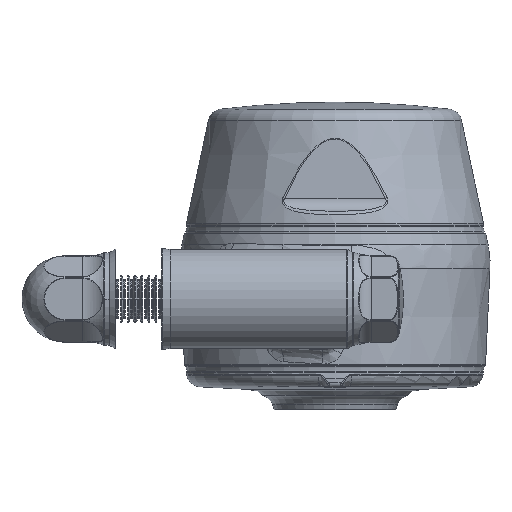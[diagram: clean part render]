
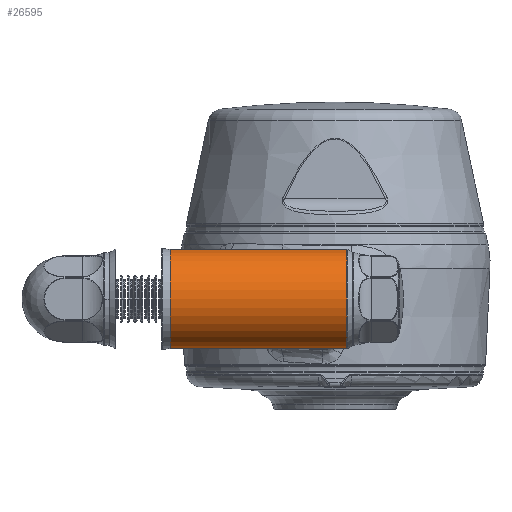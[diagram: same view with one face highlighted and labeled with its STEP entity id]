
A CAD part, front view. The second image highlights one B-rep face of the part: STEP entity #26595.
In plain terms, the highlighted cylindrical face has radius 10.5 mm (diameter 21 mm), a partial arc.
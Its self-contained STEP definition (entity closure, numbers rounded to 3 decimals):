
#402 = CARTESIAN_POINT ( 'NONE',  ( -35., -52.5, 10.5 ) ) ;
#1093 = DIRECTION ( 'NONE',  ( 1., 0., 0. ) ) ;
#2788 = EDGE_CURVE ( 'NONE', #28587, #23941, #20156, .T. ) ;
#4043 = VECTOR ( 'NONE', #26566, 1000. ) ;
#4439 = LINE ( 'NONE', #13858, #4043 ) ;
#4810 = DIRECTION ( 'NONE',  ( 1., 0., 0. ) ) ;
#5209 = AXIS2_PLACEMENT_3D ( 'NONE', #24037, #1093, #21870 ) ;
#8911 = CIRCLE ( 'NONE', #21015, 10.5 ) ;
#9025 = ORIENTED_EDGE ( 'NONE', *, *, #2788, .T. ) ;
#9977 = CIRCLE ( 'NONE', #5209, 10.5 ) ;
#11156 = CARTESIAN_POINT ( 'NONE',  ( -35., -52.5, -10.5 ) ) ;
#11353 = DIRECTION ( 'NONE',  ( 0., 0., 1. ) ) ;
#11750 = CARTESIAN_POINT ( 'NONE',  ( -36.5, -52.5, 0. ) ) ;
#13858 = CARTESIAN_POINT ( 'NONE',  ( -36.5, -52.5, 10.5 ) ) ;
#13901 = DIRECTION ( 'NONE',  ( 1., 0., 0. ) ) ;
#14394 = FACE_OUTER_BOUND ( 'NONE', #15190, .T. ) ;
#14416 = ORIENTED_EDGE ( 'NONE', *, *, #28078, .T. ) ;
#14483 = CARTESIAN_POINT ( 'NONE',  ( 2.5, -52.5, 0. ) ) ;
#14562 = DIRECTION ( 'NONE',  ( 0., 0., 1. ) ) ;
#15190 = EDGE_LOOP ( 'NONE', ( #31605, #9025, #14416, #26839 ) ) ;
#15607 = VERTEX_POINT ( 'NONE', #16480 ) ;
#16423 = VECTOR ( 'NONE', #4810, 1000. ) ;
#16480 = CARTESIAN_POINT ( 'NONE',  ( 2.5, -52.5, 10.5 ) ) ;
#16645 = DIRECTION ( 'NONE',  ( -1., 0., 0. ) ) ;
#17046 = CARTESIAN_POINT ( 'NONE',  ( 2.5, -52.5, -10.5 ) ) ;
#17051 = CARTESIAN_POINT ( 'NONE',  ( -36.5, -52.5, -10.5 ) ) ;
#19199 = CYLINDRICAL_SURFACE ( 'NONE', #30973, 10.5 ) ;
#20156 = LINE ( 'NONE', #17051, #16423 ) ;
#21015 = AXIS2_PLACEMENT_3D ( 'NONE', #14483, #16645, #11353 ) ;
#21870 = DIRECTION ( 'NONE',  ( 0., 0., -1. ) ) ;
#23941 = VERTEX_POINT ( 'NONE', #17046 ) ;
#24037 = CARTESIAN_POINT ( 'NONE',  ( -35., -52.5, 0. ) ) ;
#25426 = VERTEX_POINT ( 'NONE', #402 ) ;
#25540 = EDGE_CURVE ( 'NONE', #25426, #15607, #4439, .T. ) ;
#26566 = DIRECTION ( 'NONE',  ( 1., 0., 0. ) ) ;
#26595 = ADVANCED_FACE ( 'NONE', ( #14394 ), #19199, .T. ) ;
#26839 = ORIENTED_EDGE ( 'NONE', *, *, #25540, .F. ) ;
#27577 = EDGE_CURVE ( 'NONE', #25426, #28587, #9977, .T. ) ;
#28078 = EDGE_CURVE ( 'NONE', #23941, #15607, #8911, .T. ) ;
#28587 = VERTEX_POINT ( 'NONE', #11156 ) ;
#30973 = AXIS2_PLACEMENT_3D ( 'NONE', #11750, #13901, #14562 ) ;
#31605 = ORIENTED_EDGE ( 'NONE', *, *, #27577, .T. ) ;
